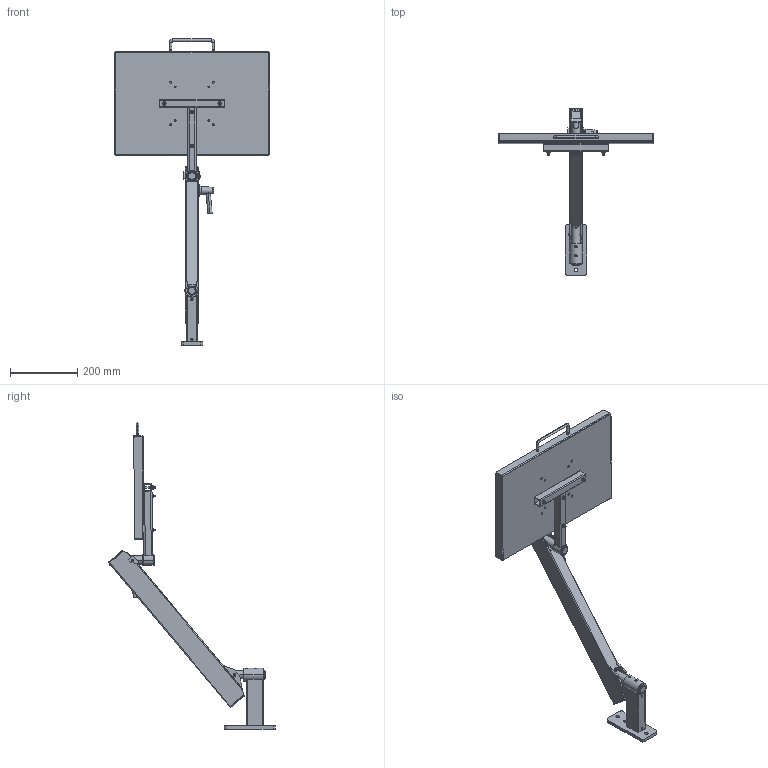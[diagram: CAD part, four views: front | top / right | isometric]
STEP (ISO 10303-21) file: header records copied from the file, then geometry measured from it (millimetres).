
FILE_DESCRIPTION (( 'STEP AP203' ), '1' );
FILE_NAME ('70-0726-00 REV AA, 18in FLEX SYSTEM, TOOL TRAY, WALL MOUNT W EXT - ANGLE UP.STEP', '2025-09-16T23:21:23', ( '' ), ( '' ), 'SwSTEP 2.0', 'SolidWorks 2025', '' );
FILE_SCHEMA (( 'CONFIG_CONTROL_DESIGN' ));
Length unit declared in the file: inch
Products named in the file (52): 016-008-00, OILITE PLUS BEARING, 0.876 id x 1.002 od x 1.25 lg; 11-0450-00 REV AA, FOAM, YELLOW, 18x12; 002-041-00_002-041-00; 71-0047-RX REV AA, HOUSING, T AND STRAIGHT BAR_MACHINE; 007-036-00, SHSS, 1''4-28, .25L_007-036-00; 70-0726-00 REV AA, 18in FLEX SYSTEM, TOOL TRAY, WALL MOUNT W EXT - ANGLE UP; 71-2113-RX REV AA, HOUSING, BEARING, TALL, 1.5OD_MACHINE; 70-1826-00 REV AA, FLEX SECTION, 18in, 3-26 LB; 71-0038-RX REV AA, PIVOT, KNUCKLE, ELECTROLESS NICKEL; 007-031-00_007-031-00; 11-0601-99 REV AA, CONICAL KNOB, BRAKE ASSEMBLY; 71-0030-RX REV AA, KNUCKLE, LOAD_MACHINE; 005-084-00, BOLT, 1''4-20x2.75; 010-012-00, RETAINING RING, EXTERNAL, .875in SHAFT; 71-3033-99 REV AA, BOLT, ADJUSTING, 15.250; 016-007-00, OILITE PLUS BEARING, 0.876 id x 1.002 od x 0.75 lg; 11-0650-00 REV AA, BRAKE HANDLE ASSEMBLY; 11-020-RX REV AA, PIN, KNURLED, 1.0LG x .25OD; 71-0031-RX REV AA, KNUCKLE, MOUNT_MACHINE; 002-100-00, BHSCS, 8-32x.375_002-100-00; 71-0217-RX REV AA, PLATE, NARROW WALL MOUNT_Laser; 71-1800-RX REV AA, HOUSING, 18in FLEX; 71-2032-RX REV AA, SPRING ROD, 18in FLEX; 71-1801-BLKX REV AA, FLEX HOUSING, 18in, BLACK; 71-0071-RX REV AA, AXLE PIN, LONG; 71-0040-RX REV AA, BRAKE BLOCK, WIDE_MACHINE; 006-008-00, NUT, HEX, 10-32 x .125_006-008-00; 025-067-00, HANDLE, U SHAPED, 8-32; 71-0037-RX REV AA, PIVOT, THREADED; 70-0095-00 REV AA, STUD MOUNT, 6in EXT; 016-070-00, BEARING, PLASTIC, .5ID x .625 OD x .75; 004-144-00; 71-0972-99 REV AA, END CAP, FLEX; 71-0070-RX REV AA, AXLE PIN, SHORT; 71-1051-RX REV AA, SPRING BLOCK; 71-0091-RX REV AA, HOUSING, WALL MOUNT, 6in EXTENSION; 010-011-00, RETAINING RING, EXT, .250 SHAFT_010-011-00; 11-0027-RX REV AA, PLASTIC DISC, BRAKE ASSEMBLY_MACHINE; 71-0013-RX REV AA, HOUSING, BEARING, SHORT_MACHINE; 11-0401-00 REV AA, 18x12 TOOL TRAY, BLACK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
Assembly tree (80 placements, depth 4):
  70-0726-00 REV AA, 18in FLEX SYSTEM, TOOL TRAY, WALL MOUNT W EXT - ANGLE UP
    70-0095-00 REV AA, STUD MOUNT, 6in EXT
      71-0217-RX REV AA, PLATE, NARROW WALL MOUNT_Laser
      71-0091-RX REV AA, HOUSING, WALL MOUNT, 6in EXTENSION
      71-2113-RX REV AA, HOUSING, BEARING, TALL, 1.5OD_MACHINE
      016-007-00, OILITE PLUS BEARING, 0.876 id x 1.002 od x 0.75 lg
      016-008-00, OILITE PLUS BEARING, 0.876 id x 1.002 od x 1.25 lg
      007-036-00, SHSS, 1''4-28, .25L_007-036-00
    70-0401-00 REV AA, 18x12 SUPPORT TRAY ASSEMBLY
      11-0401-00 REV AA, 18x12 TOOL TRAY, BLACK
      70-0050-00 REV AA, T BAR
        71-0047-RX REV AA, HOUSING, T AND STRAIGHT BAR_MACHINE
        71-0013-RX REV AA, HOUSING, BEARING, SHORT_MACHINE
        71-0052-RX REV AA, HOUSING, T AND STRAIGHT BAR CROSS SECTION_MACHINE
        016-008-00, OILITE PLUS BEARING, 0.876 id x 1.002 od x 1.25 lg
        007-031-00_007-031-00
      002-091-00, FHSCS, 10-32x1.5, BO_002-091-00  x4
      006-008-00, NUT, HEX, 10-32 x .125_006-008-00  x4
      025-067-00, HANDLE, U SHAPED, 8-32
      002-100-00, BHSCS, 8-32x.375_002-100-00  x2
      11-0450-00 REV AA, FOAM, YELLOW, 18x12
    70-1826-00 REV AA, FLEX SECTION, 18in, 3-26 LB
      71-0031-RX REV AA, KNUCKLE, MOUNT_MACHINE
      71-2032-RX REV AA, SPRING ROD, 18in FLEX
      71-0030-RX REV AA, KNUCKLE, LOAD_MACHINE
      71-0038-RX REV AA, PIVOT, KNUCKLE, ELECTROLESS NICKEL
      71-3033-99 REV AA, BOLT, ADJUSTING, 15.250
      71-0040-RX REV AA, BRAKE BLOCK, WIDE_MACHINE
      11-0027-RX REV AA, PLASTIC DISC, BRAKE ASSEMBLY_MACHINE
      71-1051-RX REV AA, SPRING BLOCK
      71-0037-RX REV AA, PIVOT, THREADED
      71-0972-99 REV AA, END CAP, FLEX  x2
      11-0650-00 REV AA, BRAKE HANDLE ASSEMBLY
        11-0601-99 REV AA, CONICAL KNOB, BRAKE ASSEMBLY
        11-0602-RX REV AA, HANDLE, BRAKE ASSEMBLY
        11-0027-RX REV AA, PLASTIC DISC, BRAKE ASSEMBLY_MACHINE
        005-084-00, BOLT, 1''4-20x2.75
      71-0071-RX REV AA, AXLE PIN, LONG
      71-1801-BLKX REV AA, FLEX HOUSING, 18in, BLACK
        71-1800-RX REV AA, HOUSING, 18in FLEX
        71-0029-RX REV AA, TAB, LOAD  x2
        71-0028-RX REV AA, TAB, MOUNT_MACHINE  x2
      71-0070-RX REV AA, AXLE PIN, SHORT
      010-011-00, RETAINING RING, EXT, .250 SHAFT_010-011-00  x4
      002-041-00_002-041-00  x2
      010-012-00, RETAINING RING, EXTERNAL, .875in SHAFT  x2
      11-020-RX REV AA, PIN, KNURLED, 1.0LG x .25OD  x2
      011-033-00
      004-144-00  x3
      013-314-00, SPRING, GOLD, 1x12
      016-070-00, BEARING, PLASTIC, .5ID x .625 OD x .75  x2
      006-059-00
      006-004-00_006-004-00  x2
      004-050-00, WASHER, FIBER, .032 THK, .265ID  x8
Bounding box: 461.77 x 496.5 x 912.09 mm (x, y, z)
Volume: 1747765.3 mm3; surface area: 1212877.7 mm2
Topology: 76 solids, 76 shells, 2043 faces, 4964 edges, 3065 vertices
Faces by surface type: cylinder 908, plane 561, cone 423, torus 89, bspline 52, sphere 10
Entity records: 82381 total; most frequent: CARTESIAN_POINT 46773, ORIENTED_EDGE 6160, DIRECTION 6084, EDGE_CURVE 3080, AXIS2_PLACEMENT_3D 2355, VERTEX_POINT 1911, EDGE_LOOP 1415, VECTOR 1374
